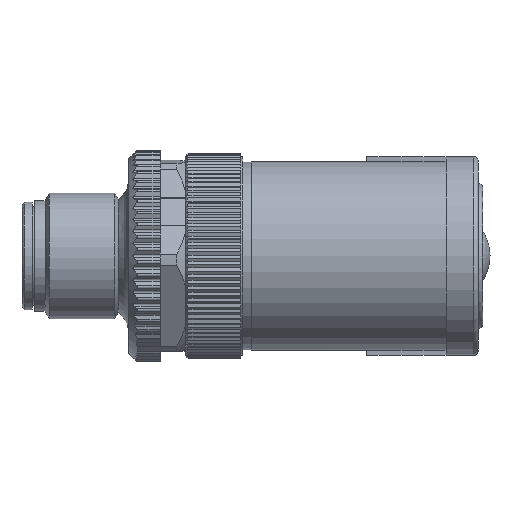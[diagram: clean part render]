
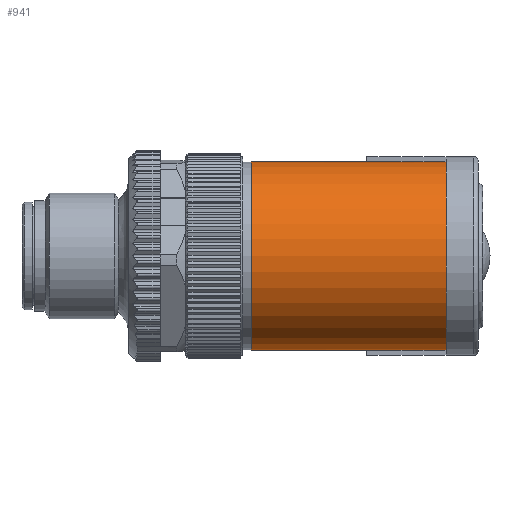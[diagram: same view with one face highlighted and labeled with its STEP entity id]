
A CAD part, top view. The second image highlights one B-rep face of the part: STEP entity #941.
In plain terms, the highlighted cylindrical face has radius 9 mm (diameter 18 mm), a full revolution.
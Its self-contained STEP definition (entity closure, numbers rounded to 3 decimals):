
#102=CYLINDRICAL_SURFACE('',#12935,9.);
#381=ELLIPSE('',#12932,103.263,9.);
#382=ELLIPSE('',#12934,103.263,9.);
#393=B_SPLINE_CURVE_WITH_KNOTS('',3,(#17617,#17618,#17619,#17620,#17621,
#17622,#17623,#17624,#17625,#17626,#17627,#17628,#17629,#17630,#17631,#17632,
#17633,#17634,#17635,#17636,#17637,#17638),.UNSPECIFIED.,.F.,.F.,(4,2,2,
2,2,2,2,2,2,2,4),(0.,0.063,0.125,0.25,0.375,0.5,0.625,0.75,0.875,0.938,
1.),.UNSPECIFIED.);
#813=FACE_BOUND('',#2680,.T.);
#814=FACE_BOUND('',#2681,.T.);
#941=ADVANCED_FACE('',(#813,#814),#102,.T.);
#2680=EDGE_LOOP('',(#3970));
#2681=EDGE_LOOP('',(#3971,#3972,#3973,#3974,#3975,#3976));
#3456=CIRCLE('',#12925,9.);
#3459=CIRCLE('',#12929,9.);
#3460=CIRCLE('',#12931,9.);
#3461=CIRCLE('',#12933,9.);
#3970=ORIENTED_EDGE('',*,*,#9066,.T.);
#3971=ORIENTED_EDGE('',*,*,#9067,.F.);
#3972=ORIENTED_EDGE('',*,*,#9065,.F.);
#3973=ORIENTED_EDGE('',*,*,#9068,.T.);
#3974=ORIENTED_EDGE('',*,*,#9069,.T.);
#3975=ORIENTED_EDGE('',*,*,#9070,.T.);
#3976=ORIENTED_EDGE('',*,*,#9059,.F.);
#7790=VERTEX_POINT('',#17598);
#7792=VERTEX_POINT('',#17601);
#7795=VERTEX_POINT('',#17608);
#7797=VERTEX_POINT('',#17612);
#7798=VERTEX_POINT('',#17616);
#7799=VERTEX_POINT('',#17640);
#7800=VERTEX_POINT('',#17642);
#9059=EDGE_CURVE('',#7790,#7792,#3456,.T.);
#9065=EDGE_CURVE('',#7797,#7795,#3459,.T.);
#9066=EDGE_CURVE('',#7798,#7798,#3460,.T.);
#9067=EDGE_CURVE('',#7795,#7790,#393,.T.);
#9068=EDGE_CURVE('',#7797,#7799,#381,.T.);
#9069=EDGE_CURVE('',#7799,#7800,#3461,.T.);
#9070=EDGE_CURVE('',#7800,#7792,#382,.T.);
#12925=AXIS2_PLACEMENT_3D('',#17600,#14159,#14160);
#12929=AXIS2_PLACEMENT_3D('',#17613,#14170,#14171);
#12931=AXIS2_PLACEMENT_3D('',#17615,#14174,#14175);
#12932=AXIS2_PLACEMENT_3D('',#17639,#14176,#14177);
#12933=AXIS2_PLACEMENT_3D('',#17641,#14178,#14179);
#12934=AXIS2_PLACEMENT_3D('',#17643,#14180,#14181);
#12935=AXIS2_PLACEMENT_3D('',#17644,#14182,#14183);
#14159=DIRECTION('',(1.,0.,0.));
#14160=DIRECTION('',(0.,0.,1.));
#14170=DIRECTION('',(1.,0.,0.));
#14171=DIRECTION('',(0.,0.,1.));
#14174=DIRECTION('',(1.,0.,0.));
#14175=DIRECTION('',(0.,0.,1.));
#14176=DIRECTION('',(-0.087,0.,0.996));
#14177=DIRECTION('',(0.996,0.,0.087));
#14178=DIRECTION('',(-1.,0.,0.));
#14179=DIRECTION('',(0.,-1.,0.));
#14180=DIRECTION('',(-0.087,0.,0.996));
#14181=DIRECTION('',(0.996,0.,0.087));
#14182=DIRECTION('',(1.,0.,0.));
#14183=DIRECTION('',(0.,0.,1.));
#17598=CARTESIAN_POINT('',(14.9,8.9,-1.338));
#17600=CARTESIAN_POINT('',(14.9,0.,0.));
#17601=CARTESIAN_POINT('',(14.9,8.975,-0.665));
#17608=CARTESIAN_POINT('',(14.9,-8.9,-1.338));
#17612=CARTESIAN_POINT('',(14.9,-8.975,-0.665));
#17613=CARTESIAN_POINT('',(14.9,0.,0.));
#17615=CARTESIAN_POINT('',(3.9,0.,0.));
#17616=CARTESIAN_POINT('',(3.9,0.,9.));
#17617=CARTESIAN_POINT('',(14.9,-8.9,-1.338));
#17618=CARTESIAN_POINT('',(14.214,-8.9,-1.338));
#17619=CARTESIAN_POINT('',(13.634,-8.826,-1.815));
#17620=CARTESIAN_POINT('',(12.588,-8.611,-2.652));
#17621=CARTESIAN_POINT('',(12.1,-8.464,-3.098));
#17622=CARTESIAN_POINT('',(10.662,-7.894,-4.429));
#17623=CARTESIAN_POINT('',(9.773,-7.357,-5.295));
#17624=CARTESIAN_POINT('',(8.147,-5.899,-6.882));
#17625=CARTESIAN_POINT('',(7.412,-4.973,-7.606));
#17626=CARTESIAN_POINT('',(6.326,-2.699,-8.677));
#17627=CARTESIAN_POINT('',(6.002,-1.366,-8.998));
#17628=CARTESIAN_POINT('',(5.998,1.341,-9.002));
#17629=CARTESIAN_POINT('',(6.327,2.697,-8.677));
#17630=CARTESIAN_POINT('',(7.402,4.956,-7.616));
#17631=CARTESIAN_POINT('',(8.133,5.885,-6.896));
#17632=CARTESIAN_POINT('',(9.77,7.356,-5.298));
#17633=CARTESIAN_POINT('',(10.666,7.895,-4.426));
#17634=CARTESIAN_POINT('',(12.094,8.462,-3.103));
#17635=CARTESIAN_POINT('',(12.587,8.611,-2.653));
#17636=CARTESIAN_POINT('',(13.638,8.826,-1.812));
#17637=CARTESIAN_POINT('',(14.218,8.9,-1.338));
#17638=CARTESIAN_POINT('',(14.9,8.9,-1.338));
#17639=CARTESIAN_POINT('',(22.5,0.,0.));
#17640=CARTESIAN_POINT('',(22.5,-9.,0.));
#17641=CARTESIAN_POINT('',(22.5,0.,0.));
#17642=CARTESIAN_POINT('',(22.5,9.,0.));
#17643=CARTESIAN_POINT('',(22.5,0.,0.));
#17644=CARTESIAN_POINT('',(0.5,0.,0.));
